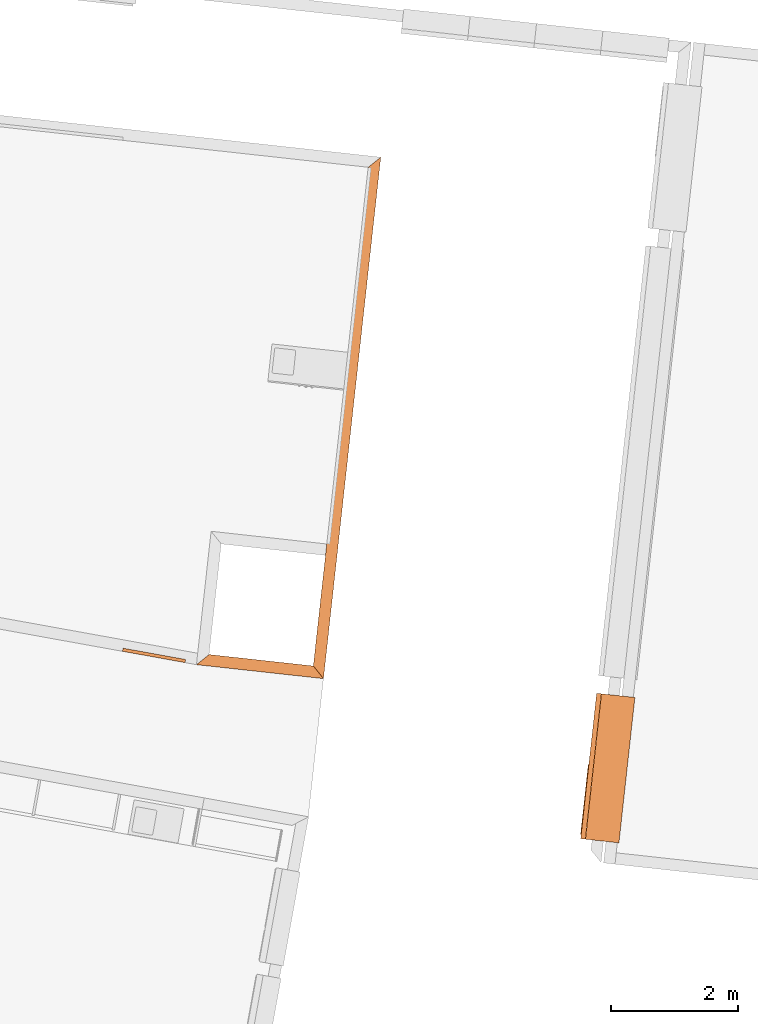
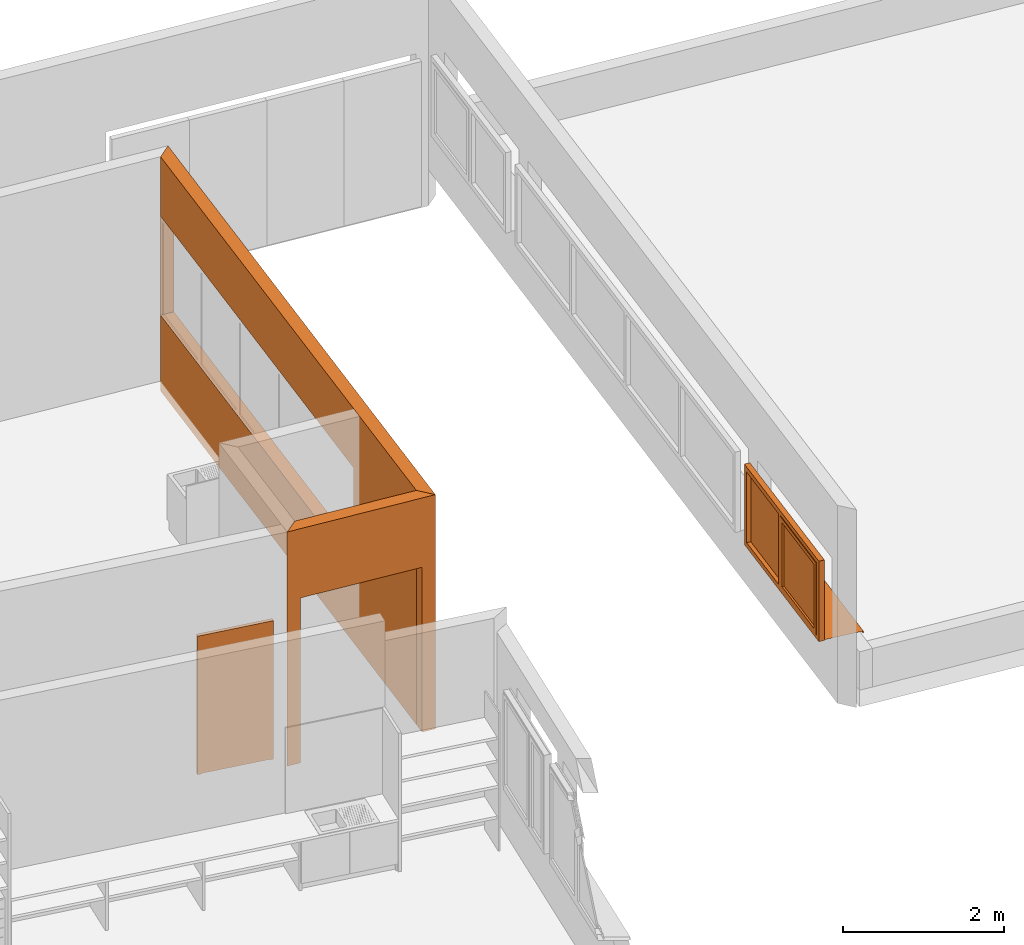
# One storey, part 47 of 52: 4 proxies.
"""IFC2X3 building model written with IfcOpenShell, lengths in metres."""

from ifc_helpers import new_model, entity, si_unit, converted_unit, derived_unit, money_unit, direction, frame, origin_with_axes, place, context, subcontext, project, spatial, polyline, outline, extrude, boolean, open_shell, faceted_brep, surface_model, material, type_object, element, save


model = new_model("IFC2X3")

# Units and contexts
model_context = context("Model", 3, precision=1e-05, world=origin_with_axes(), true_north=direction((0.0, 1.0)))
body_context = subcontext(model_context, "Body", "Model", "MODEL_VIEW")
ifc_project = project(units=[si_unit("LENGTHUNIT", "METRE"), si_unit("AREAUNIT", "SQUARE_METRE"), si_unit("VOLUMEUNIT", "CUBIC_METRE"), converted_unit("PLANEANGLEUNIT", "DEGREE", entity("IfcPlaneAngleMeasure", 0.0174532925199), si_unit("PLANEANGLEUNIT", "RADIAN"), dimensions=[0, 0, 0, 0, 0, 0, 0]), money_unit("CHF"), converted_unit("TIMEUNIT", "Year", entity("IfcTimeMeasure", 31556926.0), si_unit("TIMEUNIT", "SECOND"), dimensions=[0, 0, 1, 0, 0, 0, 0]), si_unit("MASSUNIT", "GRAM", prefix="KILO"), si_unit("THERMODYNAMICTEMPERATUREUNIT", "DEGREE_CELSIUS"), si_unit("LUMINOUSINTENSITYUNIT", "LUMEN"), si_unit("ENERGYUNIT", "JOULE", prefix="MEGA"), derived_unit("THERMALCONDUCTANCEUNIT", [(si_unit("POWERUNIT", "WATT"), 1), (si_unit("LENGTHUNIT", "METRE"), -1), (si_unit("THERMODYNAMICTEMPERATUREUNIT", "KELVIN"), -1)]), derived_unit("SPECIFICHEATCAPACITYUNIT", [(si_unit("ENERGYUNIT", "JOULE"), 1), (si_unit("MASSUNIT", "GRAM", prefix="KILO"), -1), (si_unit("THERMODYNAMICTEMPERATUREUNIT", "KELVIN"), -1)]), derived_unit("MASSDENSITYUNIT", [(si_unit("MASSUNIT", "GRAM", prefix="KILO"), 1), (si_unit("VOLUMEUNIT", "CUBIC_METRE"), -1)])], contexts=[model_context])

# Site, building, storey
site_placement = place(None, frame((0.0, 0.0, 0.0), z_axis=(0.0, 0.0, 1.0), x_axis=(-0.177771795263, -0.984071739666, 0.0)))
site = spatial("IfcSite", under=ifc_project, at=site_placement, Name="Site", CompositionType="ELEMENT")
building_placement = place(site_placement, origin_with_axes())
building = spatial("IfcBuilding", under=site, at=building_placement, Name="Bâtiment", CompositionType="ELEMENT")
storey_placement = place(building_placement, frame((0.0, 0.0, 3.2), z_axis=(0.0, 0.0, 1.0), x_axis=(1.0, 0.0, 0.0)))
storey = spatial("IfcBuildingStorey", under=building, at=storey_placement, Name="R+1", CompositionType="ELEMENT", Elevation=3.2)

# Proxies
ifc_material_1 = material(Name="_BA banché RAL9007")
building_element_proxy_type_1 = type_object("IfcBuildingElementProxyType", Name="_BA banché RAL9007 180", PredefinedType="NOTDEFINED")
proxy_1_placement = place(storey_placement, frame((99.5158098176, -148.844810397, -0.15), z_axis=(0.0, 0.0, 1.0), x_axis=(0.997598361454, 0.0692640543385, 0.0)))
element("IfcBuildingElementProxy", 1, at=proxy_1_placement, inside=storey, type_object=building_element_proxy_type_1, material=ifc_material_1, Name="M refend", context=body_context, shape_type="CSG", body=[
    boolean("DIFFERENCE", extrude(outline(polyline([(0.179999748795, -0.18), (8.06962597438, -0.18), (8.24962597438, 0.0), (0.0, 0.0), (0.179999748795, -0.18)])), origin_with_axes(), (0.0, 0.0, 1.0), 3.55), faceted_brep([(0.179999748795, 0.0, 1.15), (0.179999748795, 0.0, 2.65), (6.13962572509, 0.0, 2.65), (6.13962572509, 0.0, 1.15), (0.179999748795, -0.18, 1.15), (0.179999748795, -0.18, 2.65), (6.13962572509, -0.18, 2.65), (6.13962572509, -0.18, 1.15)], [[[0, 1, 2, 3]], [[4, 5, 1, 0]], [[5, 6, 2, 1]], [[6, 7, 3, 2]], [[7, 4, 0, 3]], [[4, 7, 6, 5]]])),
])
proxy_2_placement = place(storey_placement, frame((107.884843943, -150.278580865, -0.15), z_axis=(0.0, 0.0, 1.0), x_axis=(-0.0692640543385, 0.997598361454, 0.0)))
element("IfcBuildingElementProxy", 2, at=proxy_2_placement, inside=storey, type_object=building_element_proxy_type_1, material=ifc_material_1, Name="facade ascenseur", context=body_context, shape_type="CSG", body=[
    boolean("DIFFERENCE", extrude(outline(polyline([(3.03016832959e-07, 0.0), (2.01000030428, 0.0), (1.83000030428, 0.18), (0.180000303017, 0.18), (3.03016832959e-07, 0.0)])), origin_with_axes(), (0.0, 0.0, 1.0), 3.55), faceted_brep([(1.83000030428, 0.0, 0.0), (1.83000030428, 0.0, 2.5), (0.18000030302, 0.0, 2.5), (0.18000030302, 0.0, 0.0), (1.83000030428, 0.18, 0.0), (1.83000030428, 0.18, 2.5), (0.18000030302, 0.18, 2.5), (0.18000030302, 0.18, 0.0)], [[[0, 1, 2, 3]], [[1, 0, 4, 5]], [[2, 1, 5, 6]], [[3, 2, 6, 7]], [[4, 0, 3, 7]], [[5, 4, 7, 6]]])),
])
ifc_material_2 = material(Name="Matériau de construction IFC")
building_element_proxy_type_2 = type_object("IfcBuildingElementProxyType", Name="Porte 21", PredefinedType="NOTDEFINED")
proxy_3_placement = place(storey_placement, frame((107.884841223, -151.460205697, 0.0), z_axis=(0.0, 0.0, 1.0), x_axis=(0.0, 1.0, 0.0)))
element("IfcBuildingElementProxy", 3, at=proxy_3_placement, inside=storey, type_object=building_element_proxy_type_2, material=ifc_material_2, Name="31", context=body_context, shape_type="Brep", body=[
    faceted_brep([(0.05, 0.00999999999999, 0.0), (0.05, 0.00999999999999, 2.05), (0.05, 0.0, 2.05), (0.05, 0.0, 0.0), (0.038, 0.00999999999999, 2.05), (0.038, 0.00999999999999, 0.0), (0.038, 0.05, 2.05), (0.0, 0.05, 2.05), (0.0, 0.0, 2.05), (0.0, 0.0, 0.0), (0.0, 0.05, 0.0), (0.038, 0.05, 0.0)], [[[0, 1, 2, 3]], [[4, 1, 0, 5]], [[4, 6, 7, 8, 2, 1]], [[3, 2, 8, 9]], [[5, 0, 3, 9, 10, 11]], [[6, 4, 5, 11]], [[6, 11, 10, 7]], [[10, 9, 8, 7]]]),
    faceted_brep([(0.962, 0.00999999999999, 2.05), (0.95, 0.00999999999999, 2.05), (0.95, 0.0, 2.05), (1.0, 0.0, 2.05), (1.0, 0.05, 2.05), (0.962, 0.05, 2.05), (0.962, 0.00999999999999, 0.0), (0.95, 0.00999999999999, 0.0), (0.95, 0.0, 0.0), (1.0, 0.0, 0.0), (1.0, 0.05, 0.0), (0.962, 0.05, 0.0)], [[[0, 1, 2, 3, 4, 5]], [[1, 0, 6, 7]], [[1, 7, 8, 2]], [[3, 2, 8, 9]], [[4, 3, 9, 10]], [[11, 5, 4, 10]], [[0, 5, 11, 6]], [[6, 11, 10, 9, 8, 7]]]),
    faceted_brep([(0.038, 0.05, 2.062), (0.038, 0.05, 2.05), (0.0, 0.05, 2.05), (0.0, 0.05, 2.1), (1.0, 0.05, 2.1), (1.0, 0.05, 2.05), (0.962, 0.05, 2.05), (0.962, 0.05, 2.062), (0.038, 0.00999999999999, 2.062), (0.038, 0.00999999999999, 2.05), (0.05, 0.00999999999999, 2.05), (0.05, 0.0, 2.05), (0.0, 0.0, 2.05), (0.0, 0.0, 2.1), (1.0, 0.0, 2.1), (1.0, 0.0, 2.05), (0.962, 0.00999999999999, 2.05), (0.95, 0.0, 2.05), (0.95, 0.00999999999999, 2.05), (0.962, 0.00999999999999, 2.062)], [[[0, 1, 2, 3, 4, 5, 6, 7]], [[1, 0, 8, 9]], [[9, 10, 11, 12, 2, 1]], [[2, 12, 13, 3]], [[3, 13, 14, 4]], [[4, 14, 15, 5]], [[16, 6, 5, 15, 17, 18]], [[7, 6, 16, 19]], [[0, 7, 19, 8]], [[16, 18, 10, 9, 8, 19]], [[10, 18, 17, 11]], [[17, 15, 14, 13, 12, 11]]]),
    faceted_brep([(0.962, 0.04, 0.0), (0.962, 0.00999999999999, 0.0), (0.038, 0.00999999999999, 0.0), (0.038, 0.04, 0.0), (0.962, 0.04, 2.062), (0.962, 0.00999999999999, 2.062), (0.038, 0.00999999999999, 2.062), (0.038, 0.04, 2.062)], [[[0, 1, 2, 3]], [[4, 5, 1, 0]], [[1, 5, 6, 2]], [[3, 2, 6, 7]], [[0, 3, 7, 4]], [[7, 6, 5, 4]]]),
])
building_element_proxy_type_3 = type_object("IfcBuildingElementProxyType", Name="Fenêtre horizontale à châssis multiples 21", PredefinedType="NOTDEFINED")
proxy_4_placement = place(storey_placement, frame((109.478047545, -143.486881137, 1.28), z_axis=(0.0, 0.0, 1.0), x_axis=(-0.997598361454, -0.0692640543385, 0.0)))
element("IfcBuildingElementProxy", 4, at=proxy_4_placement, inside=storey, type_object=building_element_proxy_type_3, material=ifc_material_2, Name="Fen vide-sur-hall-Est", context=body_context, shape_type="SurfaceModel", body=[
    surface_model("IfcShellBasedSurfaceModel", [(0.0, 0.284, 0.02), (0.0, 0.284, 0.01), (2.3, 0.284, 0.01), (2.3, 0.284, 0.02), (0.0, -0.245, -0.00859649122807), (2.3, -0.245, -0.00859649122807), (0.0, -0.245, -0.0385964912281), (2.3, -0.245, -0.0385964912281), (0.0, -0.23, -0.0235964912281), (2.3, -0.23, -0.0235964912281)], [open_shell([[[0, 1, 2, 3]], [[1, 4, 5, 2]], [[4, 6, 7, 5]], [[6, 8, 9, 7]]])]),
    faceted_brep([(0.065, 0.36, 1.145), (0.0, 0.36, 1.145), (0.0, 0.285, 1.145), (0.075, 0.285, 1.145), (0.075, 0.295, 1.145), (0.065, 0.295, 1.145), (0.065, 0.36, 0.075), (0.0, 0.36, 0.075), (0.0, 0.285, 0.075), (0.075, 0.285, 0.075), (0.075, 0.295, 0.075), (0.065, 0.295, 0.075)], [[[0, 1, 2, 3, 4, 5]], [[6, 7, 1, 0]], [[1, 7, 8, 2]], [[2, 8, 9, 3]], [[4, 3, 9, 10]], [[10, 11, 5, 4]], [[5, 11, 6, 0]], [[11, 10, 9, 8, 7, 6]]]),
    faceted_brep([(0.065, 0.36, 1.145), (0.0, 0.36, 1.145), (0.0, 0.36, 1.22), (2.3, 0.36, 1.22), (2.3, 0.36, 1.145), (2.225, 0.36, 1.145), (1.2375, 0.36, 1.145), (1.1725, 0.36, 1.145), (1.1725, 0.36, 1.155), (0.065, 0.36, 1.155), (0.065, 0.295, 1.145), (0.075, 0.295, 1.145), (0.075, 0.285, 1.145), (0.0, 0.285, 1.145), (0.0, 0.285, 1.22), (2.3, 0.285, 1.22), (2.3, 0.285, 1.145), (2.225, 0.285, 1.145), (1.2375, 0.285, 1.145), (1.1725, 0.295, 1.145), (1.1625, 0.285, 1.145), (1.1625, 0.295, 1.145), (1.1725, 0.295, 1.155), (0.065, 0.295, 1.155)], [[[0, 1, 2, 3, 4, 5, 6, 7, 8, 9]], [[10, 11, 12, 13, 1, 0]], [[2, 1, 13, 14]], [[3, 2, 14, 15]], [[4, 3, 15, 16]], [[5, 4, 16, 17]], [[6, 5, 17, 18]], [[19, 7, 6, 18, 20, 21]], [[7, 19, 22, 8]], [[8, 22, 23, 9]], [[9, 23, 10, 0]], [[21, 11, 10, 23, 22, 19]], [[21, 20, 12, 11]], [[16, 15, 14, 13, 12, 20, 18, 17]]]),
    faceted_brep([(1.1625, 0.295, 0.075), (1.1625, 0.285, 0.075), (1.2375, 0.285, 0.075), (1.2375, 0.36, 0.075), (1.1725, 0.36, 0.075), (1.1725, 0.295, 0.075), (0.075, 0.295, 0.075), (0.075, 0.285, 0.075), (0.0, 0.285, 0.075), (0.0, 0.285, 0.0), (2.3, 0.285, 0.0), (2.3, 0.285, 0.075), (2.225, 0.285, 0.075), (2.225, 0.36, 0.075), (0.065, 0.36, 0.065), (1.1725, 0.36, 0.065), (2.3, 0.36, 0.075), (2.3, 0.36, 0.0), (0.0, 0.36, 0.0), (0.0, 0.36, 0.075), (0.065, 0.36, 0.075), (1.1725, 0.295, 0.065), (0.065, 0.295, 0.065), (0.065, 0.295, 0.075)], [[[0, 1, 2, 3, 4, 5]], [[6, 7, 1, 0]], [[1, 7, 8, 9, 10, 11, 12, 2]], [[13, 3, 2, 12]], [[14, 15, 4, 3, 13, 16, 17, 18, 19, 20]], [[15, 21, 5, 4]], [[5, 21, 22, 23, 6, 0]], [[23, 20, 19, 8, 7, 6]], [[19, 18, 9, 8]], [[18, 17, 10, 9]], [[17, 16, 11, 10]], [[16, 13, 12, 11]], [[14, 22, 21, 15]], [[23, 22, 14, 20]]]),
    faceted_brep([(1.1625, 0.295, 1.145), (1.1625, 0.285, 1.145), (1.2375, 0.285, 1.145), (1.2375, 0.36, 1.145), (1.1725, 0.36, 1.145), (1.1725, 0.295, 1.145), (1.1625, 0.295, 0.075), (1.1625, 0.285, 0.075), (1.2375, 0.285, 0.075), (1.2375, 0.36, 0.075), (1.1725, 0.36, 0.075), (1.1725, 0.295, 0.075)], [[[0, 1, 2, 3, 4, 5]], [[6, 7, 1, 0]], [[2, 1, 7, 8]], [[9, 3, 2, 8]], [[4, 3, 9, 10]], [[10, 11, 5, 4]], [[5, 11, 6, 0]], [[11, 10, 9, 8, 7, 6]]]),
    faceted_brep([(2.225, 0.285, 0.075), (2.225, 0.36, 0.075), (2.3, 0.36, 0.075), (2.3, 0.285, 0.075), (2.225, 0.285, 1.145), (2.225, 0.36, 1.145), (2.3, 0.36, 1.145), (2.3, 0.285, 1.145)], [[[0, 1, 2, 3]], [[4, 5, 1, 0]], [[1, 5, 6, 2]], [[3, 2, 6, 7]], [[0, 3, 7, 4]], [[7, 6, 5, 4]]]),
    faceted_brep([(0.125, 0.295, 1.095), (0.125, 0.37, 1.095), (0.065, 0.37, 1.095), (0.065, 0.295, 1.095), (0.125, 0.295, 0.125), (0.125, 0.37, 0.125), (0.065, 0.37, 0.125), (0.065, 0.295, 0.125)], [[[0, 1, 2, 3]], [[4, 5, 1, 0]], [[1, 5, 6, 2]], [[3, 2, 6, 7]], [[0, 3, 7, 4]], [[7, 6, 5, 4]]]),
    faceted_brep([(1.1125, 0.295, 0.125), (1.1125, 0.37, 0.125), (1.1725, 0.37, 0.125), (1.1725, 0.295, 0.125), (1.1125, 0.295, 1.095), (1.1125, 0.37, 1.095), (1.1725, 0.37, 1.095), (1.1725, 0.295, 1.095)], [[[0, 1, 2, 3]], [[4, 5, 1, 0]], [[1, 5, 6, 2]], [[3, 2, 6, 7]], [[0, 3, 7, 4]], [[7, 6, 5, 4]]]),
    faceted_brep([(1.1725, 0.295, 0.065), (1.1725, 0.37, 0.065), (1.1725, 0.37, 0.125), (1.1725, 0.295, 0.125), (0.065, 0.295, 0.065), (0.065, 0.37, 0.065), (0.065, 0.37, 0.125), (0.125, 0.37, 0.125), (1.1125, 0.37, 0.125), (1.1125, 0.295, 0.125), (0.125, 0.295, 0.125), (0.065, 0.295, 0.125)], [[[0, 1, 2, 3]], [[4, 5, 1, 0]], [[1, 5, 6, 7, 8, 2]], [[3, 2, 8, 9]], [[0, 3, 9, 10, 11, 4]], [[11, 6, 5, 4]], [[10, 7, 6, 11]], [[9, 8, 7, 10]]]),
    faceted_brep([(0.065, 0.295, 1.155), (0.065, 0.37, 1.155), (0.065, 0.37, 1.095), (0.065, 0.295, 1.095), (1.1725, 0.295, 1.155), (1.1725, 0.37, 1.155), (1.1725, 0.37, 1.095), (1.1125, 0.37, 1.095), (0.125, 0.37, 1.095), (0.125, 0.295, 1.095), (1.1125, 0.295, 1.095), (1.1725, 0.295, 1.095)], [[[0, 1, 2, 3]], [[4, 5, 1, 0]], [[1, 5, 6, 7, 8, 2]], [[3, 2, 8, 9]], [[0, 3, 9, 10, 11, 4]], [[11, 6, 5, 4]], [[10, 7, 6, 11]], [[9, 8, 7, 10]]]),
    surface_model("IfcShellBasedSurfaceModel", [(0.125, 0.3225, 0.125), (1.1125, 0.3225, 0.125), (1.1125, 0.3225, 1.095), (0.125, 0.3225, 1.095)], [open_shell([[[0, 1, 2, 3]]])]),
    surface_model("IfcShellBasedSurfaceModel", [(0.125, 0.3425, 0.125), (0.125, 0.3425, 1.095), (1.1125, 0.3425, 1.095), (1.1125, 0.3425, 0.125)], [open_shell([[[0, 1, 2, 3]]])]),
    surface_model("IfcShellBasedSurfaceModel", [(1.2375, 0.285, 0.075), (2.225, 0.285, 0.075), (2.225, 0.285, 1.145), (1.2375, 0.285, 1.145)], [open_shell([[[0, 1, 2, 3]]])]),
    surface_model("IfcShellBasedSurfaceModel", [(1.2375, 0.305, 0.075), (1.2375, 0.305, 1.145), (2.225, 0.305, 1.145), (2.225, 0.305, 0.075)], [open_shell([[[0, 1, 2, 3]]])]),
])

save(model, "model.ifc")
